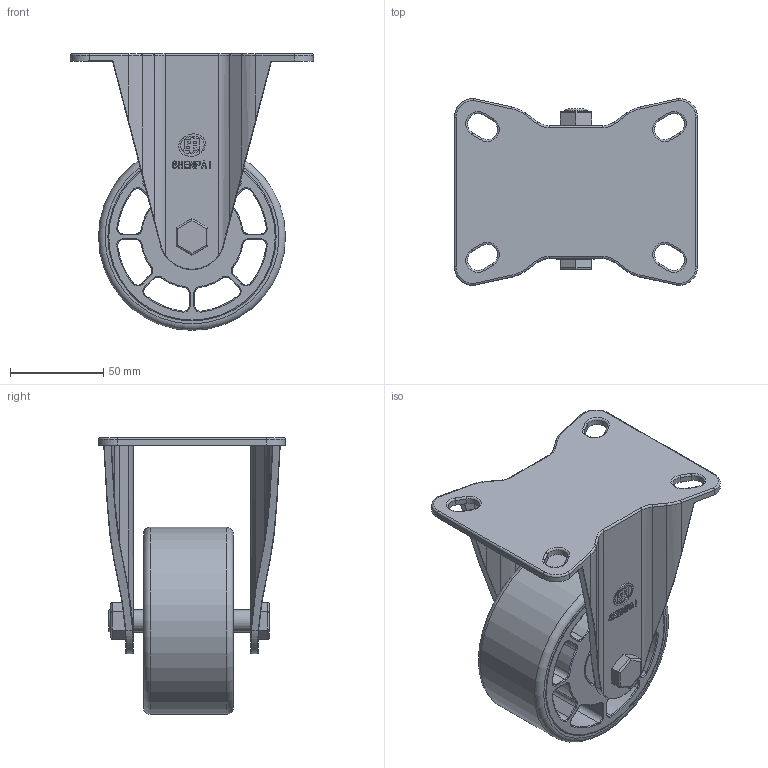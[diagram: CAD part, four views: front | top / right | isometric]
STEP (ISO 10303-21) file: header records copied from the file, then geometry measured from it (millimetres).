
FILE_DESCRIPTION(/* description */ (''),/* implementation_level */ '2;1');
FILE_NAME(/* name */ '30B18_4_F.stp',/* time_stamp */ '2022-09-03T15:43:37+08:00',/* author */ (''),/* organization */ (''),/* preprocessor_version */ 'ST-DEVELOPER v14',/* originating_system */ 'SIEMENS PLM Software NX 8.0',/* authorisation */ '');
FILE_SCHEMA (('AUTOMOTIVE_DESIGN { 1 0 10303 214 3 1 1 1 }'));
Length unit declared in the file: millimetre
Products named in the file (1): 30B18_4_F
Bounding box: 130 x 100 x 148 mm (x, y, z)
Volume: 364728.4 mm3; surface area: 103062.7 mm2
Topology: 1 solids, 1 shells, 620 faces, 1514 edges, 921 vertices
Faces by surface type: plane 236, cylinder 209, torus 137, bspline 30, sphere 8
Full cylindrical faces by diameter (mm): 12 x3, 90 x2, 100 x1
Entity records: 19075 total; most frequent: CARTESIAN_POINT 4883, ORIENTED_EDGE 2994, DIRECTION 2948, EDGE_CURVE 1497, AXIS2_PLACEMENT_3D 1182, VERTEX_POINT 919, EDGE_LOOP 686, ADVANCED_FACE 620
